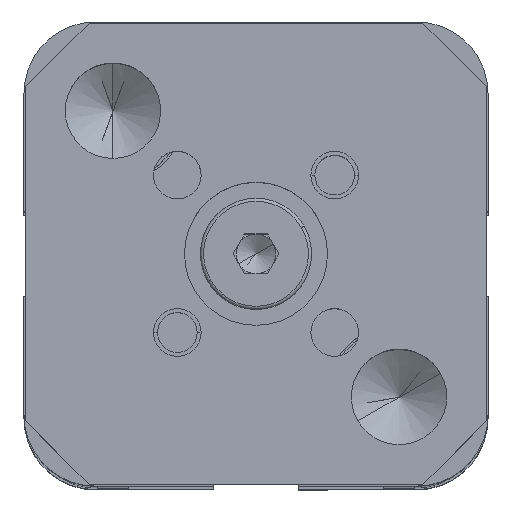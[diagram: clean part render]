
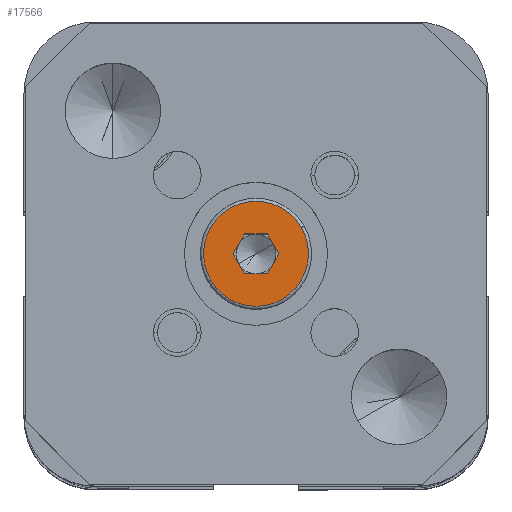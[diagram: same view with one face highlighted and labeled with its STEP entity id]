
A CAD part, top view. The second image highlights one B-rep face of the part: STEP entity #17566.
In plain terms, the highlighted planar face has unit normal (0, 0, 1).
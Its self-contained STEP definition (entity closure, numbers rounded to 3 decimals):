
#4980 = CARTESIAN_POINT ( 'NONE',  ( 2.858, 1.65, 5. ) ) ;
#4981 = DIRECTION ( 'NONE',  ( 0.866, 0.5, 0. ) ) ;
#4982 = DIRECTION ( 'NONE',  ( 0., 0., 1. ) ) ;
#4983 = CARTESIAN_POINT ( 'NONE',  ( 0., 0., 5. ) ) ;
#4984 = AXIS2_PLACEMENT_3D ( 'NONE', #4983, #4982, #4981 ) ;
#4985 = CIRCLE ( 'NONE', #4984, 3.3 ) ;
#4986 = CARTESIAN_POINT ( 'NONE',  ( -2.858, -1.65, 5. ) ) ;
#6997 = DIRECTION ( 'NONE',  ( -0.5, 0.866, 0. ) ) ;
#6998 = VECTOR ( 'NONE', #6997, 1000. ) ;
#6999 = CARTESIAN_POINT ( 'NONE',  ( 1.443, 0., 5. ) ) ;
#7000 = LINE ( 'NONE', #6999, #6998 ) ;
#7001 = CARTESIAN_POINT ( 'NONE',  ( 0.722, 1.25, 5. ) ) ;
#7002 = CARTESIAN_POINT ( 'NONE',  ( -0.722, 1.25, 5. ) ) ;
#7003 = DIRECTION ( 'NONE',  ( 1., 0., 0. ) ) ;
#7004 = VECTOR ( 'NONE', #7003, 1000. ) ;
#7005 = CARTESIAN_POINT ( 'NONE',  ( -0.722, 1.25, 5. ) ) ;
#7006 = LINE ( 'NONE', #7005, #7004 ) ;
#7007 = DIRECTION ( 'NONE',  ( 0.866, 0.5, 0. ) ) ;
#7008 = DIRECTION ( 'NONE',  ( 0., 0., 1. ) ) ;
#7009 = CARTESIAN_POINT ( 'NONE',  ( 0., 0., 5. ) ) ;
#7010 = AXIS2_PLACEMENT_3D ( 'NONE', #7009, #7008, #7007 ) ;
#7011 = PLANE ( 'NONE',  #7010 ) ;
#7012 = FACE_OUTER_BOUND ( 'NONE', #17639, .T. ) ;
#7016 = FACE_BOUND ( 'NONE', #17567, .T. ) ;
#7019 = DIRECTION ( 'NONE',  ( 0.866, 0.5, 0. ) ) ;
#7020 = DIRECTION ( 'NONE',  ( 0., 0., 1. ) ) ;
#7021 = CARTESIAN_POINT ( 'NONE',  ( 0., 0., 5. ) ) ;
#7022 = AXIS2_PLACEMENT_3D ( 'NONE', #7021, #7020, #7019 ) ;
#7023 = CIRCLE ( 'NONE', #7022, 3.3 ) ;
#7050 = CARTESIAN_POINT ( 'NONE',  ( -1.443, 0., 5. ) ) ;
#7051 = LINE ( 'NONE', #7050, #7112 ) ;
#7052 = CARTESIAN_POINT ( 'NONE',  ( -0.722, -1.25, 5. ) ) ;
#7053 = DIRECTION ( 'NONE',  ( -1., 0., 0. ) ) ;
#7054 = VECTOR ( 'NONE', #7053, 1000. ) ;
#7055 = CARTESIAN_POINT ( 'NONE',  ( 0.722, -1.25, 5. ) ) ;
#7056 = LINE ( 'NONE', #7055, #7054 ) ;
#7057 = CARTESIAN_POINT ( 'NONE',  ( 0.722, -1.25, 5. ) ) ;
#7058 = DIRECTION ( 'NONE',  ( -0.5, -0.866, 0. ) ) ;
#7059 = VECTOR ( 'NONE', #7058, 1000. ) ;
#7060 = CARTESIAN_POINT ( 'NONE',  ( 1.443, 0., 5. ) ) ;
#7061 = LINE ( 'NONE', #7060, #7059 ) ;
#7062 = CARTESIAN_POINT ( 'NONE',  ( 1.443, 0., 5. ) ) ;
#7106 = DIRECTION ( 'NONE',  ( -0.5, -0.866, 0. ) ) ;
#7107 = VECTOR ( 'NONE', #7106, 1000. ) ;
#7108 = CARTESIAN_POINT ( 'NONE',  ( -0.722, 1.25, 5. ) ) ;
#7109 = LINE ( 'NONE', #7108, #7107 ) ;
#7110 = CARTESIAN_POINT ( 'NONE',  ( -1.443, 0., 5. ) ) ;
#7111 = DIRECTION ( 'NONE',  ( 0.5, -0.866, 0. ) ) ;
#7112 = VECTOR ( 'NONE', #7111, 1000. ) ;
#16414 = VERTEX_POINT ( 'NONE', #4986 ) ;
#16416 = EDGE_CURVE ( 'NONE', #16417, #16414, #4985, .T. ) ;
#16417 = VERTEX_POINT ( 'NONE', #4980 ) ;
#17566 = ADVANCED_FACE ( 'NONE', ( #7016, #7012 ), #7011, .T. ) ;
#17567 = EDGE_LOOP ( 'NONE', ( #17568, #17572, #17628, #17631, #17634, #17637 ) ) ;
#17568 = ORIENTED_EDGE ( 'NONE', *, *, #17569, .T. ) ;
#17569 = EDGE_CURVE ( 'NONE', #17570, #17571, #7006, .T. ) ;
#17570 = VERTEX_POINT ( 'NONE', #7002 ) ;
#17571 = VERTEX_POINT ( 'NONE', #7001 ) ;
#17572 = ORIENTED_EDGE ( 'NONE', *, *, #17573, .F. ) ;
#17573 = EDGE_CURVE ( 'NONE', #17627, #17571, #7000, .T. ) ;
#17615 = ORIENTED_EDGE ( 'NONE', *, *, #17616, .T. ) ;
#17616 = EDGE_CURVE ( 'NONE', #16414, #16417, #7023, .T. ) ;
#17627 = VERTEX_POINT ( 'NONE', #7062 ) ;
#17628 = ORIENTED_EDGE ( 'NONE', *, *, #17629, .T. ) ;
#17629 = EDGE_CURVE ( 'NONE', #17627, #17630, #7061, .T. ) ;
#17630 = VERTEX_POINT ( 'NONE', #7057 ) ;
#17631 = ORIENTED_EDGE ( 'NONE', *, *, #17632, .T. ) ;
#17632 = EDGE_CURVE ( 'NONE', #17630, #17633, #7056, .T. ) ;
#17633 = VERTEX_POINT ( 'NONE', #7052 ) ;
#17634 = ORIENTED_EDGE ( 'NONE', *, *, #17635, .F. ) ;
#17635 = EDGE_CURVE ( 'NONE', #17636, #17633, #7051, .T. ) ;
#17636 = VERTEX_POINT ( 'NONE', #7110 ) ;
#17637 = ORIENTED_EDGE ( 'NONE', *, *, #17638, .F. ) ;
#17638 = EDGE_CURVE ( 'NONE', #17570, #17636, #7109, .T. ) ;
#17639 = EDGE_LOOP ( 'NONE', ( #17640, #17615 ) ) ;
#17640 = ORIENTED_EDGE ( 'NONE', *, *, #16416, .T. ) ;
